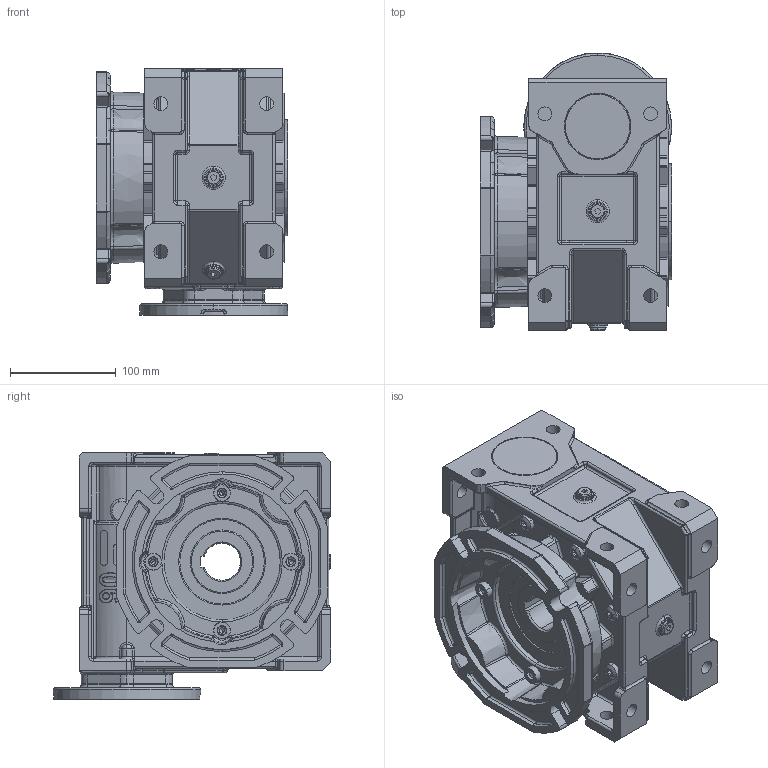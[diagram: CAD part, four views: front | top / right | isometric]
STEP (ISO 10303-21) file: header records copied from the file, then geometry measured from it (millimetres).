
FILE_DESCRIPTION (( 'STEP AP214' ), '1' );
FILE_NAME ('MKT90-FFR-100-115.STEP', '2006-05-10T10:47:50', ( '' ), ( '' ), 'SwSTEP 2.0', 'SolidWorks 2004146', '' );
FILE_SCHEMA (( 'AUTOMOTIVE_DESIGN' ));
Length unit declared in the file: millimetre
Products named in the file (6): D6912_Šroub DIN 6912 - M10x25; Skrin MKT90_MKT90 AP100; MKT90-FFR-100-115; D6912_Šroub DIN 6912 - M6x25; Pøíruba FF MKT 90_Výchozí; pøíruba115 d72 MRT80a_Výchozí
Assembly tree (13 placements, depth 2):
  MKT90-FFR-100-115
    D6912_Šroub DIN 6912 - M10x25  x4
    D6912_Šroub DIN 6912 - M6x25  x6
    Pøíruba FF MKT 90_Výchozí
    pøíruba115 d72 MRT80a_Výchozí
    Skrin MKT90_MKT90 AP100
Bounding box: 181 x 262.81 x 233 mm (x, y, z)
Volume: 5243988.2 mm3; surface area: 472532.9 mm2
Topology: 13 solids, 13 shells, 3086 faces, 7334 edges, 4155 vertices
Faces by surface type: cylinder 1107, plane 572, torus 539, bspline 417, cone 260, sphere 191
Entity records: 341583 total; most frequent: CARTESIAN_POINT 274709, DIRECTION 13592, ORIENTED_EDGE 13080, EDGE_CURVE 6540, AXIS2_PLACEMENT_3D 5718, VERTEX_POINT 3869, CIRCLE 3329, EDGE_LOOP 2961
